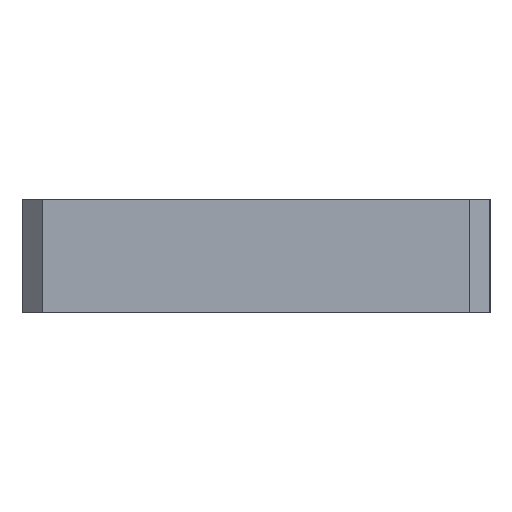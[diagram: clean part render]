
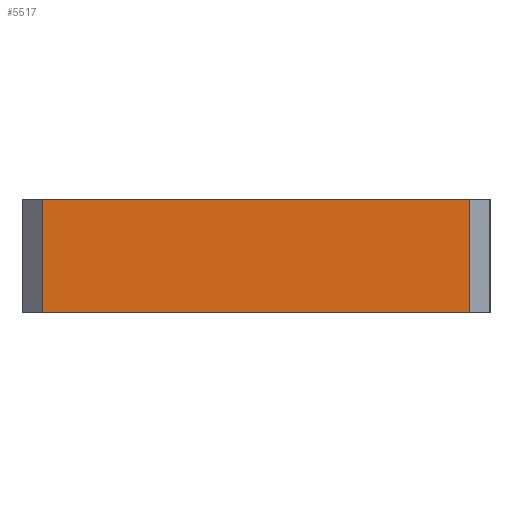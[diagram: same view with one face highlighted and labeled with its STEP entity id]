
A CAD part, top view. The second image highlights one B-rep face of the part: STEP entity #5517.
In plain terms, the highlighted planar face has unit normal (0, 0, 1).
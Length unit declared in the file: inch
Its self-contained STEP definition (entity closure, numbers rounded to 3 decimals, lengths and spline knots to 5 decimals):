
#39 = LINE ( 'NONE', #1344, #1691 ) ;
#129 = VERTEX_POINT ( 'NONE', #7861 ) ;
#566 = DIRECTION ( 'NONE',  ( 1., 0., 0. ) ) ;
#1344 = CARTESIAN_POINT ( 'NONE',  ( -1.8624, 0.98425, 2.0374 ) ) ;
#1691 = VECTOR ( 'NONE', #2595, 39.37008 ) ;
#1695 = LINE ( 'NONE', #2418, #1807 ) ;
#1807 = VECTOR ( 'NONE', #3620, 39.37008 ) ;
#2259 = ORIENTED_EDGE ( 'NONE', *, *, #7837, .T. ) ;
#2418 = CARTESIAN_POINT ( 'NONE',  ( -2.0374, 0., 2.0374 ) ) ;
#2556 = AXIS2_PLACEMENT_3D ( 'NONE', #6302, #6268, #4227 ) ;
#2595 = DIRECTION ( 'NONE',  ( 0., -1., 0. ) ) ;
#2601 = EDGE_CURVE ( 'NONE', #4250, #6018, #1695, .T. ) ;
#2658 = LINE ( 'NONE', #6436, #3660 ) ;
#3153 = ORIENTED_EDGE ( 'NONE', *, *, #3164, .F. ) ;
#3164 = EDGE_CURVE ( 'NONE', #129, #3914, #2658, .T. ) ;
#3605 = ORIENTED_EDGE ( 'NONE', *, *, #2601, .T. ) ;
#3620 = DIRECTION ( 'NONE',  ( 1., 0., 0. ) ) ;
#3660 = VECTOR ( 'NONE', #566, 39.37008 ) ;
#3713 = FACE_OUTER_BOUND ( 'NONE', #7018, .T. ) ;
#3830 = ORIENTED_EDGE ( 'NONE', *, *, #6258, .T. ) ;
#3914 = VERTEX_POINT ( 'NONE', #7511 ) ;
#4227 = DIRECTION ( 'NONE',  ( -1., 0., 0. ) ) ;
#4250 = VERTEX_POINT ( 'NONE', #8409 ) ;
#4628 = VECTOR ( 'NONE', #4859, 39.37008 ) ;
#4859 = DIRECTION ( 'NONE',  ( 0., 1., 0. ) ) ;
#5235 = CARTESIAN_POINT ( 'NONE',  ( 1.8624, 0., 2.0374 ) ) ;
#5446 = LINE ( 'NONE', #6886, #4628 ) ;
#5517 = ADVANCED_FACE ( 'NONE', ( #3713 ), #6899, .F. ) ;
#6018 = VERTEX_POINT ( 'NONE', #5235 ) ;
#6258 = EDGE_CURVE ( 'NONE', #6018, #3914, #5446, .T. ) ;
#6268 = DIRECTION ( 'NONE',  ( 0., 0., -1. ) ) ;
#6302 = CARTESIAN_POINT ( 'NONE',  ( -2.0374, 0.98425, 2.0374 ) ) ;
#6436 = CARTESIAN_POINT ( 'NONE',  ( -2.0374, 0.98425, 2.0374 ) ) ;
#6886 = CARTESIAN_POINT ( 'NONE',  ( 1.8624, 0.98425, 2.0374 ) ) ;
#6899 = PLANE ( 'NONE',  #2556 ) ;
#7018 = EDGE_LOOP ( 'NONE', ( #3153, #2259, #3605, #3830 ) ) ;
#7511 = CARTESIAN_POINT ( 'NONE',  ( 1.8624, 0.98425, 2.0374 ) ) ;
#7837 = EDGE_CURVE ( 'NONE', #129, #4250, #39, .T. ) ;
#7861 = CARTESIAN_POINT ( 'NONE',  ( -1.8624, 0.98425, 2.0374 ) ) ;
#8409 = CARTESIAN_POINT ( 'NONE',  ( -1.8624, 0., 2.0374 ) ) ;
